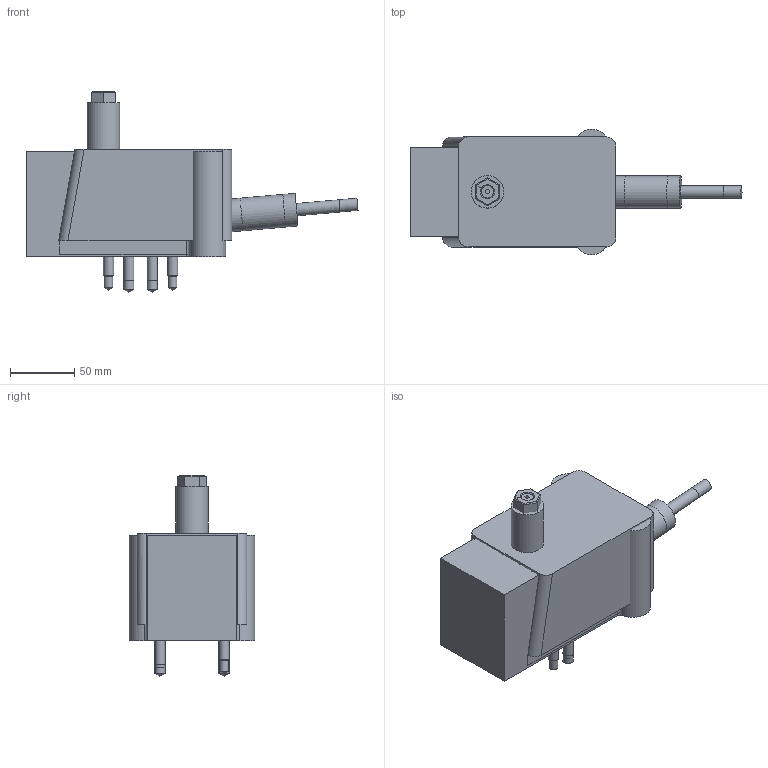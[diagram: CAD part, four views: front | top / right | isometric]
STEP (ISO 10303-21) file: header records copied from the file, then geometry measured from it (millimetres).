
FILE_DESCRIPTION(('STEP AP214'),'1');
FILE_NAME('0011_EZ-05-S_201209.stp','2020-12-14T12:20:07',(' '),(' '),'Spatial InterOp 3D',' ',' ');
FILE_SCHEMA(('AUTOMOTIVE_DESIGN { 1 0 10303 214 1 1 1 1 }'));
Length unit declared in the file: metre
Products named in the file (16): 1607626708; 1607626245; 1607624944; 1562099358; 1562100740; 1580689244; 1580689236; 1580689062; 1580689046; 1580689030; 1580689014; 1580688599; 1580700033; 1580702734; 1583159039; 1607690911
Bounding box: 258.9 x 97.7 x 156.95 mm (x, y, z)
Volume: 2522236.2 mm3; surface area: 225643.5 mm2
Topology: 16 solids, 16 shells, 245 faces, 530 edges, 337 vertices
Faces by surface type: plane 141, cylinder 55, cone 37, torus 6, bspline 4, sphere 2
Full cylindrical faces by diameter (mm): 3.797 x1, 4.826 x3, 5.159 x1, 6.35 x1, 6.528 x2, 7.938 x9, 8.5 x2, 8.731 x1, 9.51 x1, 9.525 x4, 11.906 x2, 12.7 x2, 14.25 x2, 15.875 x1, 25.146 x1, 25.4 x1, 25.527 x1, 26.746 x2, 26.924 x1, 27 x1, 50.292 x1, 50.8 x1
Entity records: 18574 total; most frequent: CARTESIAN_POINT 11497, DIRECTION 1067, ORIENTED_EDGE 818, AXIS2_PLACEMENT_3D 415, EDGE_CURVE 409, EDGE_LOOP 359, VERTEX_POINT 305, FACE_OUTER_BOUND 292
